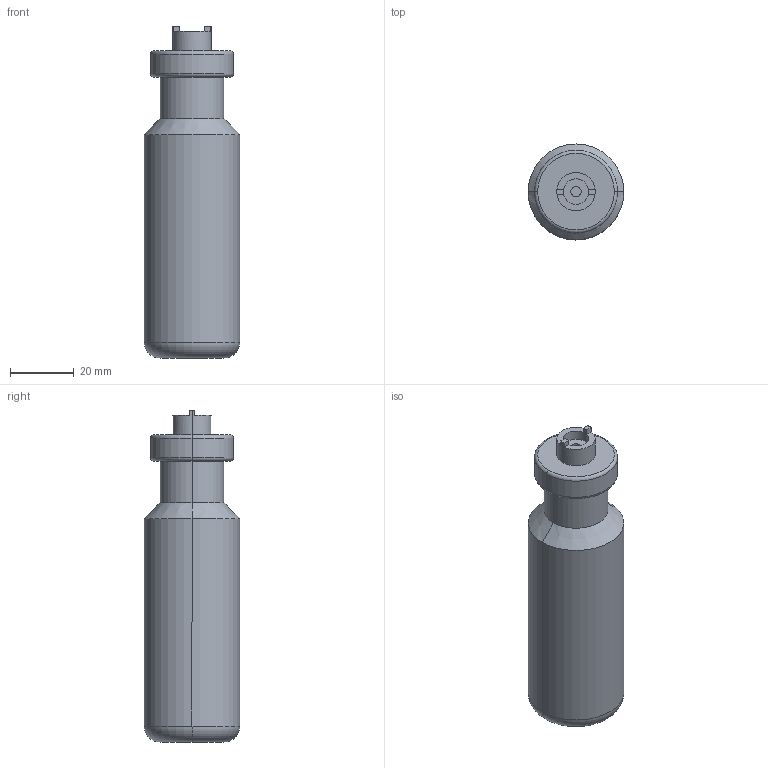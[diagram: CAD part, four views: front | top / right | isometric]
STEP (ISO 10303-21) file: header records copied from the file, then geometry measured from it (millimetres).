
FILE_DESCRIPTION(('CATIA V5 STEP Exchange'),'2;1');
FILE_NAME('D:\姚明阳\速降阀压支撑圈工装1\GZ23.01_V2.stp','2021-03-14T07:45:33+00:00',('none'),('none'),'CATIA Version 5 Release 21 GA (IN-10)','CATIA V5 STEP AP214','none');
FILE_SCHEMA(('AUTOMOTIVE_DESIGN { 1 0 10303 214 1 1 1 1 }'));
Length unit declared in the file: millimetre
Products named in the file (1): Part1
Bounding box: 30 x 30 x 104 mm (x, y, z)
Volume: 60332.4 mm3; surface area: 10297.7 mm2
Topology: 1 solids, 1 shells, 33 faces, 74 edges, 46 vertices
Faces by surface type: plane 13, cylinder 12, torus 6, cone 2
Entity records: 875 total; most frequent: ORIENTED_EDGE 148, CARTESIAN_POINT 144, DIRECTION 120, EDGE_CURVE 74, AXIS2_PLACEMENT_3D 68, VERTEX_POINT 46, CIRCLE 44, EDGE_LOOP 36
